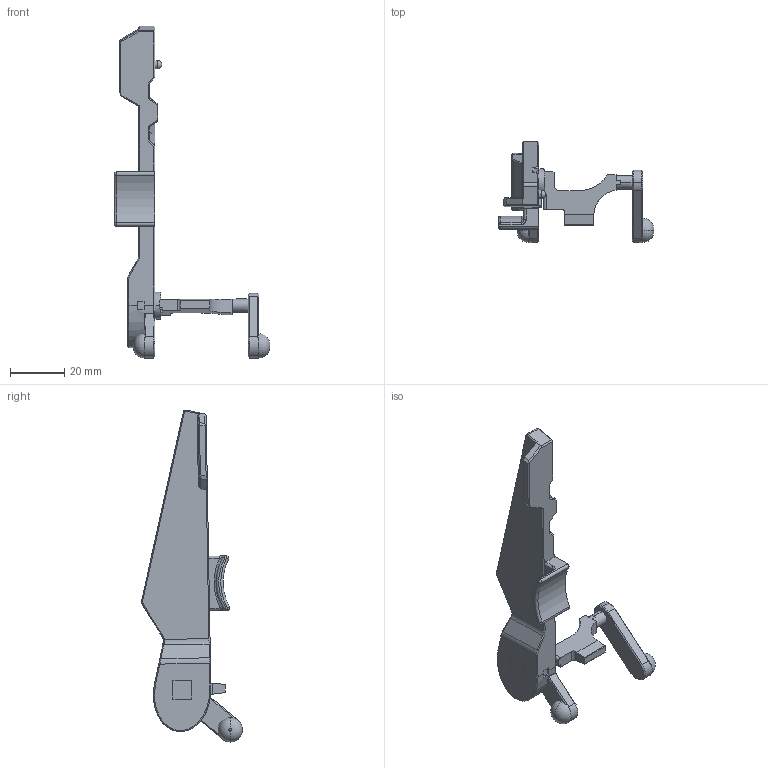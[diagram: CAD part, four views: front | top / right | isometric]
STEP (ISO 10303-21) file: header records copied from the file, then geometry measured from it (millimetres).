
FILE_DESCRIPTION (( 'STEP AP214' ), '1' );
FILE_NAME ('AK_tûzváltókar_kétkezes.STEP', '2026-02-18T11:54:34', ( '' ), ( '' ), 'SwSTEP 2.0', 'SolidWorks 2022', '' );
FILE_SCHEMA (( 'AUTOMOTIVE_DESIGN' ));
Length unit declared in the file: millimetre
Products named in the file (1): AK_tűzváltókar_kétkezes
Bounding box: 57.3 x 37.17 x 122.33 mm (x, y, z)
Volume: 19154.1 mm3; surface area: 11219.5 mm2
Topology: 6 solids, 6 shells, 239 faces, 614 edges, 383 vertices
Faces by surface type: plane 167, cylinder 35, cone 15, bspline 9, torus 7, sphere 6
Entity records: 8821 total; most frequent: CARTESIAN_POINT 3046, ORIENTED_EDGE 1214, DIRECTION 1124, EDGE_CURVE 607, VECTOR 446, LINE 446, VERTEX_POINT 379, AXIS2_PLACEMENT_3D 339
